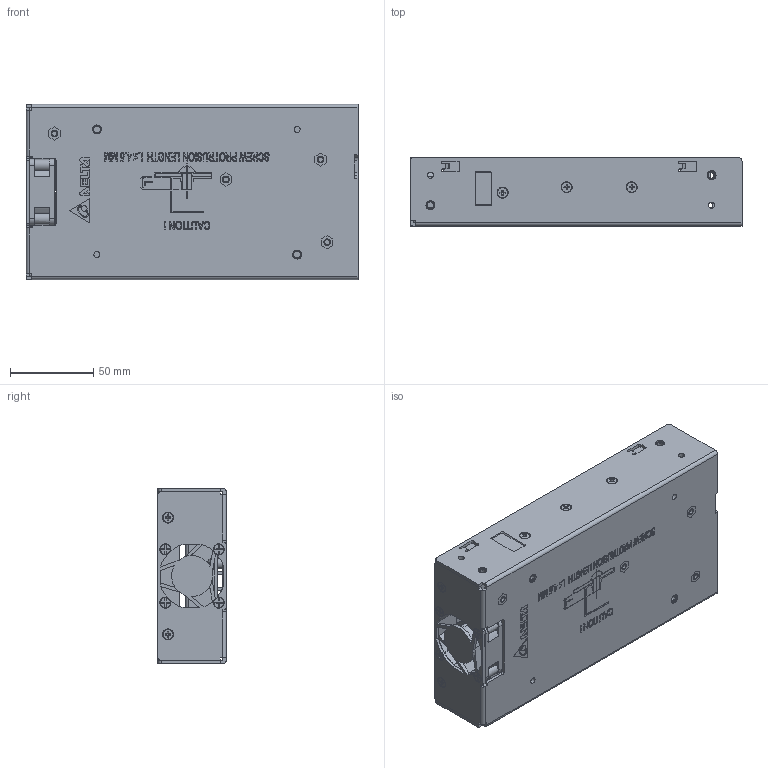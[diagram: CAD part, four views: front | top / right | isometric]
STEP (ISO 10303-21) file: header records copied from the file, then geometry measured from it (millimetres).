
FILE_DESCRIPTION((''),'2;1');
FILE_NAME('PMC-24V300W1BA_ASM','2012-04-20T',('Manop.Pr'),(''),'PRO/ENGINEER BY PARAMETRIC TECHNOLOGY CORPORATION, 2010180','PRO/ENGINEER BY PARAMETRIC TECHNOLOGY CORPORATION, 2010180','');
FILE_SCHEMA(('CONFIG_CONTROL_DESIGN','SHAPE_APPEARANCE_LAYERS_GROUPS'));
Products named in the file (20): 330305280101; 330305280101_A_PME-SM42; 330305280101_A_STUD1; 330305280101_A_STUD2; 330305280101_ASM; 330305290101; 326820920303; 2958041303_PWB; 307049867W; EE_LED350_2301151506; EE_VR550_0601013012; EE_CN2_3071592234; ASSY_PWB_ASM; 3100001200; 3105452000; 3620449011; 3103300600; 3109021101; 3100000600; PMC-24V300W1BA_ASM
Assembly tree (37 placements, depth 3):
  PMC-24V300W1BA_ASM
    330305280101_ASM
      330305280101
      330305280101_A_PME-SM42  x6
      330305280101_A_STUD1  x2
      330305280101_A_STUD2  x2
    330305290101
    326820920303
    ASSY_PWB_ASM
      2958041303_PWB
      307049867W
      EE_LED350_2301151506
      EE_VR550_0601013012
      EE_CN2_3071592234
    3100001200
    3105452000
    3620449011
    3103300600  x4
    3109021101  x4
    3100000600  x6
Bounding box: 199 x 41.06 x 105 mm (x, y, z)
Volume: 153554.2 mm3; surface area: 190173.2 mm2
Topology: 35 solids, 35 shells, 3511 faces, 9294 edges, 5910 vertices
Faces by surface type: plane 2345, cylinder 581, extrusion 297, cone 172, bspline 92, torus 14, sphere 10
Entity records: 104651 total; most frequent: CARTESIAN_POINT 18679, ORIENTED_EDGE 13464, DIRECTION 11846, PRESENTATION_STYLE_ASSIGNMENT 6788, EDGE_CURVE 6732, STYLED_ITEM 6545, CURVE_STYLE 6392, VECTOR 5248
